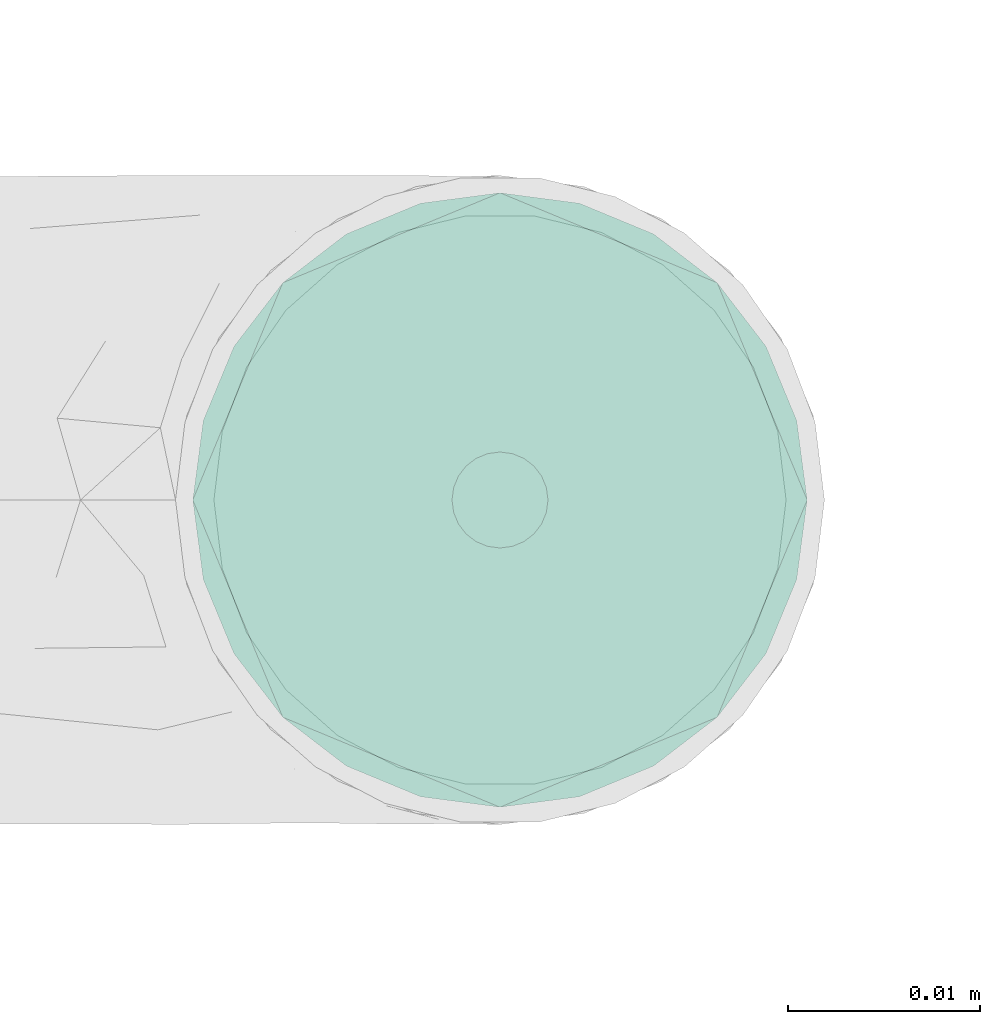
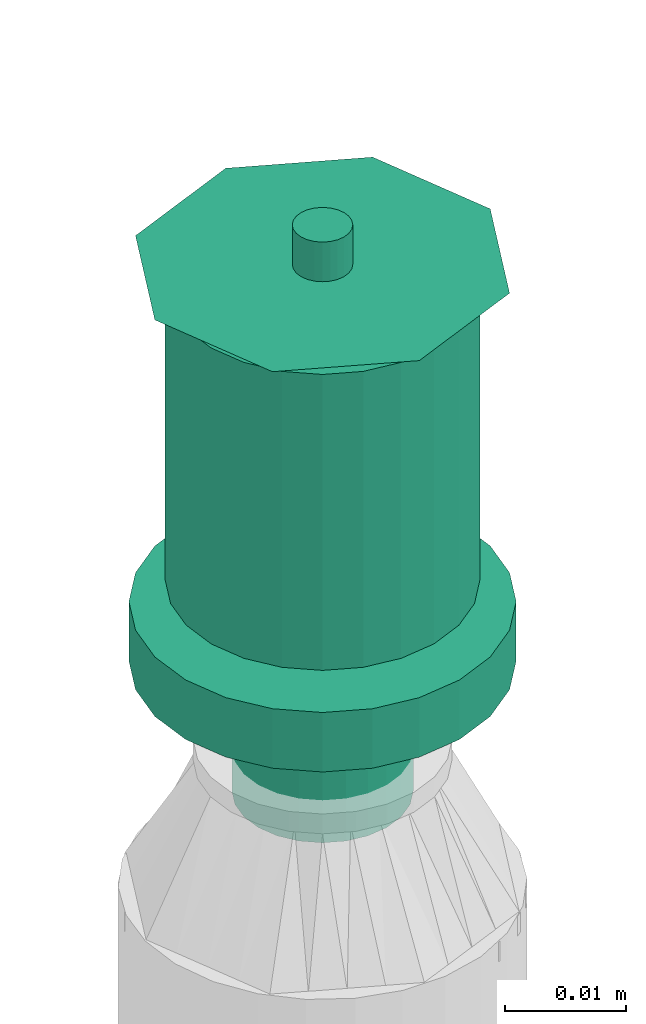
# One storey, part 61 of 157: 1 flow terminal.
"""IFC2X3 building model written with IfcOpenShell, lengths in millimetres."""

import ifcopenshell
import ifcopenshell.guid

model = None  # the IFC model being written
_history = None  # IfcOwnerHistory: only IFC2X3 demands one
_inside = {}  # id of a spatial element -> (the spatial element, [elements in it])
_under = {}  # id of a project, library or spatial element -> (it, [spatial elements below it])
_declared = {}  # id of a project -> (the project, [libraries it declares])
_typed = {}  # id of a type object -> (the type object, [elements of that type])
_made_of = {}  # id of a material, layer set ... -> (it, [elements and type objects made of it])


def new_model(schema):
    """Start an empty IFC model of exactly this schema.

    Asked for "IFC4X3", IfcOpenShell would pick the latest addendum, in which some entities
    have other attributes; the version numbers below select the first issue.
    IFC2X3 requires an IfcOwnerHistory on every rooted entity: one is made here for all.
    """
    global model, _history
    if schema == "IFC4X3":
        model = ifcopenshell.file(schema_version=(4, 3, 0, 0))
    else:
        model = ifcopenshell.file(schema=schema)
    _inside.clear()
    _under.clear()
    _declared.clear()
    _typed.clear()
    _made_of.clear()
    _history = None
    if model.schema == "IFC2X3":
        org = make("IfcOrganization", Name="unknown")
        user = make(
            "IfcPersonAndOrganization",
            ThePerson=make("IfcPerson", FamilyName="unknown"),
            TheOrganization=org,
        )
        app = make(
            "IfcApplication",
            ApplicationDeveloper=org,
            Version="unknown",
            ApplicationFullName="unknown",
            ApplicationIdentifier="unknown",
        )
        _history = make(
            "IfcOwnerHistory",
            OwningUser=user,
            OwningApplication=app,
            ChangeAction="ADDED",
            CreationDate=0,
        )
    return model


def make(cls, **values):
    """One entity of the class cls with the attributes given. An attribute that is None is left unset."""
    return model.create_entity(
        cls, **{name: value for name, value in values.items() if value is not None}
    )


def entity(cls, *values):
    """Any entity or typed value of the class cls, its attributes in the order of the schema. None: left unset."""
    e = model.create_entity(cls)
    for i, value in enumerate(values):
        if value is not None:
            e[i] = value
    return e


def rooted(cls, **values):
    """An entity with a GlobalId (a new one), such as an element, a storey or a relation."""
    return make(cls, GlobalId=ifcopenshell.guid.new(), OwnerHistory=_history, **values)


def si_unit(unit_type, name, prefix=None):
    """IfcSIUnit, for example si_unit("LENGTHUNIT", "METRE", prefix="MILLI")."""
    return make("IfcSIUnit", UnitType=unit_type, Prefix=prefix, Name=name)


def converted_unit(unit_type, name, factor, base, dimensions=None, offset=None):
    """IfcConversionBasedUnit, such as the inch: factor (a typed value) times the base unit."""
    return make(
        "IfcConversionBasedUnit"
        if offset is None
        else "IfcConversionBasedUnitWithOffset",
        ConversionOffset=offset,
        Dimensions=None
        if dimensions is None
        else entity("IfcDimensionalExponents", *dimensions),
        UnitType=unit_type,
        Name=name,
        ConversionFactor=make(
            "IfcMeasureWithUnit", ValueComponent=factor, UnitComponent=base
        ),
    )


def derived_unit(unit_type, elements):
    """IfcDerivedUnit: a product of units, each with its exponent."""
    return make(
        "IfcDerivedUnit",
        Elements=[
            make("IfcDerivedUnitElement", Unit=unit, Exponent=power)
            for unit, power in elements
        ],
        UnitType=unit_type,
    )


def assignment(units):
    """IfcUnitAssignment: the units of a project."""
    return None if units is None else make("IfcUnitAssignment", Units=units)


def point(xyz):
    """IfcCartesianPoint."""
    return None if xyz is None else make("IfcCartesianPoint", Coordinates=xyz)


def direction(xyz):
    """IfcDirection."""
    return None if xyz is None else make("IfcDirection", DirectionRatios=xyz)


def frame(location, z_axis=None, x_axis=None):
    """IfcAxis2Placement3D, a coordinate frame: its origin and axes. An axis left out is left unset."""
    return make(
        "IfcAxis2Placement3D",
        Location=point(location),
        Axis=direction(z_axis),
        RefDirection=direction(x_axis),
    )


def origin_with_axes():
    """The frame at (0, 0, 0) with the z axis (0, 0, 1) and the x axis (1, 0, 0) written out."""
    return frame((0.0, 0.0, 0.0), z_axis=(0.0, 0.0, 1.0), x_axis=(1.0, 0.0, 0.0))


def place(relative_to, where):
    """IfcLocalPlacement: puts the frame where relative to a parent placement (None: the world)."""
    return make(
        "IfcLocalPlacement", PlacementRelTo=relative_to, RelativePlacement=where
    )


def context(
    kind, dimensions, precision=None, world=None, true_north=None, identifier=None
):
    """IfcGeometricRepresentationContext, for example the 3D "Model" context."""
    return make(
        "IfcGeometricRepresentationContext",
        ContextIdentifier=identifier,
        ContextType=kind,
        CoordinateSpaceDimension=dimensions,
        Precision=precision,
        WorldCoordinateSystem=world,
        TrueNorth=true_north,
    )


def subcontext(parent, identifier, kind, view, scale=None):
    """IfcGeometricRepresentationSubContext, for example "Body" below "Model"."""
    return make(
        "IfcGeometricRepresentationSubContext",
        ContextIdentifier=identifier,
        ContextType=kind,
        ParentContext=parent,
        TargetScale=scale,
        TargetView=view,
    )


def project(units=None, contexts=None):
    """IfcProject with its units and contexts."""
    return rooted(
        "IfcProject",
        Name="project",
        RepresentationContexts=contexts,
        UnitsInContext=assignment(units),
    )


def spatial(cls, under=None, at=None, **own):
    """A site, building, storey or space (cls), placed at a placement, below another one or the project."""
    s = rooted(cls, ObjectPlacement=at, **own)
    if under is not None:
        _under.setdefault(under.id(), (under, []))[1].append(s)
    return s


def faces_of(points, faces, orient=None, outer=None):
    """IfcFace entities. A face is a list of loops; a loop is a list of indices into points, from 0.

    orient and outer hold one flag for each loop. By default every Orientation is true, the
    first loop of a face is its IfcFaceOuterBound and the others are IfcFaceBound.
    """
    made = []
    for i, loops in enumerate(faces):
        bounds = []
        for j, loop in enumerate(loops):
            is_outer = j == 0 if outer is None else outer[i][j]
            bounds.append(
                make(
                    "IfcFaceOuterBound" if is_outer else "IfcFaceBound",
                    Bound=make("IfcPolyLoop", Polygon=[points[k] for k in loop]),
                    Orientation=True if orient is None else orient[i][j],
                )
            )
        made.append(make("IfcFace", Bounds=bounds))
    return made


def open_shell(faces, orient=None, outer=None):
    """The faces of one IfcOpenShell. surface_model builds it on its shared points."""
    return ("IfcOpenShell", faces, orient, outer)


def surface_model(cls, points, shells):
    """IfcFaceBasedSurfaceModel or IfcShellBasedSurfaceModel (cls): surfaces that need not close."""
    shared = [point(p) for p in points]
    made = [make(c, CfsFaces=faces_of(shared, fs, o, b)) for c, fs, o, b in shells]
    if cls == "IfcFaceBasedSurfaceModel":
        return make(cls, FbsmFaces=made)
    return make(cls, SbsmBoundary=made)


def shape(context_of_items, identifier, shape_type, items):
    """IfcShapeRepresentation: the items that make up one representation, for example the "Body"."""
    return make(
        "IfcShapeRepresentation",
        ContextOfItems=context_of_items,
        RepresentationIdentifier=identifier,
        RepresentationType=shape_type,
        Items=items,
    )


def source(mapping_origin, context_of_items, identifier, shape_type, items):
    """IfcRepresentationMap: a shape defined once, which mapped items show again and again."""
    return make(
        "IfcRepresentationMap",
        MappingOrigin=mapping_origin,
        MappedRepresentation=shape(context_of_items, identifier, shape_type, items),
    )


def transform(
    local_origin,
    x_axis=None,
    y_axis=None,
    z_axis=None,
    scale=None,
    scale2=None,
    scale3=None,
    uniform=True,
):
    """IfcCartesianTransformationOperator3D, or its non-uniform kind. x_axis, y_axis, z_axis: its Axis1, 2, 3."""
    if uniform:
        return make(
            "IfcCartesianTransformationOperator3D",
            Axis1=direction(x_axis),
            Axis2=direction(y_axis),
            LocalOrigin=point(local_origin),
            Scale=scale,
            Axis3=direction(z_axis),
        )
    return make(
        "IfcCartesianTransformationOperator3DnonUniform",
        Axis1=direction(x_axis),
        Axis2=direction(y_axis),
        LocalOrigin=point(local_origin),
        Scale=scale,
        Axis3=direction(z_axis),
        Scale2=scale2,
        Scale3=scale3,
    )


def mapped(mapping_source, mapping_target):
    """IfcMappedItem: shows the shape of a source again, moved by a transform."""
    return make(
        "IfcMappedItem", MappingSource=mapping_source, MappingTarget=mapping_target
    )


def made_of(thing, what):
    """Note that an element or type object is made of a material, layer set ...; save() writes the relation."""
    if what is not None:
        _made_of.setdefault(what.id(), (what, []))[1].append(thing)
    return thing


def type_object(cls, material=None, **own):
    """A type object (cls), such as IfcWallType, which elements share."""
    return made_of(rooted(cls, **own), material)


def element(
    cls,
    number,
    at=None,
    inside=None,
    cuts=None,
    type_object=None,
    material=None,
    context=None,
    identifier="Body",
    shape_type=None,
    held_by="IfcProductDefinitionShape",
    body=None,
    shapes=None,
    **own,
):
    """One element of the class cls, such as IfcWall. Its Tag is "e" and its number.

    at: its placement. inside: the storey or other place that contains it. cuts: it is an
    opening in that element (IfcRelVoidsElement). A single representation is given by context,
    identifier, shape_type and body (its items); several are given by shapes. held_by: the class
    of the entity that holds the representations. save() writes the other relations.
    """
    e = rooted(cls, Tag="e%d" % number, ObjectPlacement=at, **own)
    if body is not None:
        shapes = [shape(context, identifier, shape_type, body)]
    if shapes is not None:
        e.Representation = make(held_by, Representations=shapes)
    if inside is not None:
        _inside.setdefault(inside.id(), (inside, []))[1].append(e)
    if cuts is not None:
        rooted(
            "IfcRelVoidsElement", RelatingBuildingElement=cuts, RelatedOpeningElement=e
        )
    if type_object is not None:
        _typed.setdefault(type_object.id(), (type_object, []))[1].append(e)
    return made_of(e, material)


def aggregate(whole, parts):
    """IfcRelAggregates: a whole, such as a stair, and the parts it consists of."""
    return rooted("IfcRelAggregates", RelatingObject=whole, RelatedObjects=parts)


def save(model, path):
    """Write the relations noted so far, then the file.

    IfcRelAggregates (storeys below a building ...), IfcRelContainedInSpatialStructure (elements
    in a storey), IfcRelDefinesByType, IfcRelAssociatesMaterial and IfcRelDeclares: one each for
    every whole, place, type object, material and project.
    """
    for whole, parts in _under.values():
        aggregate(whole, parts)
    for where, things in _inside.values():
        rooted(
            "IfcRelContainedInSpatialStructure",
            RelatedElements=things,
            RelatingStructure=where,
        )
    for kind, things in _typed.values():
        rooted("IfcRelDefinesByType", RelatedObjects=things, RelatingType=kind)
    for what, things in _made_of.values():
        rooted("IfcRelAssociatesMaterial", RelatedObjects=things, RelatingMaterial=what)
    for by, libraries in _declared.values():
        rooted("IfcRelDeclares", RelatingContext=by, RelatedDefinitions=libraries)
    model.write(path)


model = new_model("IFC2X3")

# Units and contexts
model_context = context("Model", 3, precision=0.01, world=frame((0.0, 4.29681676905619e-09, 0.0)), true_north=direction((4.01073788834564e-13, 1.0)))
plan_context = context("Plan", 3, precision=0.01, world=frame((0.0, 4.29681676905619e-09, 0.0)), true_north=direction((4.01073788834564e-13, 1.0)))
body_context = subcontext(model_context, "Body", "Model", "MODEL_VIEW")
ifc_project = project(units=[converted_unit("PLANEANGLEUNIT", "DEGREE", entity("IfcPositiveLengthMeasure", 0.0174532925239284), si_unit("PLANEANGLEUNIT", "RADIAN"), dimensions=[0, 0, 0, 0, 0, 0, 0]), si_unit("AREAUNIT", "SQUARE_METRE"), si_unit("LENGTHUNIT", "METRE", prefix="MILLI"), si_unit("MASSUNIT", "GRAM", prefix="KILO"), si_unit("POWERUNIT", "WATT"), si_unit("PRESSUREUNIT", "PASCAL"), si_unit("FORCEUNIT", "NEWTON", prefix="KILO"), si_unit("ELECTRICCURRENTUNIT", "AMPERE"), si_unit("THERMODYNAMICTEMPERATUREUNIT", "DEGREE_CELSIUS"), si_unit("TIMEUNIT", "SECOND"), si_unit("VOLUMEUNIT", "CUBIC_METRE"), derived_unit("LINEARVELOCITYUNIT", [(si_unit("LENGTHUNIT", "METRE"), 1), (si_unit("TIMEUNIT", "SECOND"), -1)]), derived_unit("VOLUMETRICFLOWRATEUNIT", [(si_unit("VOLUMEUNIT", "CUBIC_METRE"), 1), (si_unit("TIMEUNIT", "SECOND"), -1)]), derived_unit("THERMALTRANSMITTANCEUNIT", [(si_unit("POWERUNIT", "WATT"), 1), (si_unit("THERMODYNAMICTEMPERATUREUNIT", "KELVIN"), -1), (si_unit("AREAUNIT", "SQUARE_METRE"), -1)])], contexts=[model_context, plan_context])

# Site, building, storey
site_placement = place(None, frame((0.0, -4.29681676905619e-09, 0.0), z_axis=(0.0, 0.0, 1.0), x_axis=(1.0, 0.0, 0.0)))
site = spatial("IfcSite", under=ifc_project, at=site_placement, CompositionType="ELEMENT")
building_placement = place(site_placement, frame((0.0, 4.29681676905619e-09, 0.0), z_axis=(0.0, 0.0, 1.0), x_axis=(1.0, 0.0, 0.0)))
building = spatial("IfcBuilding", under=site, at=building_placement, Name="mc-building", CompositionType="ELEMENT")
storey_placement = place(building_placement, frame((0.0, 0.0, 204000.0), z_axis=(0.0, 0.0, 1.0), x_axis=(1.0, 0.0, 0.0)))
storey = spatial("IfcBuildingStorey", under=building, at=storey_placement, Name="Nivå D", CompositionType="ELEMENT", Elevation=204000.0)

# Flow terminal
fire_suppression_terminal_type = type_object("IfcFireSuppressionTerminalType", Name="68DGR-STD-STÅENDE", PredefinedType="NOTDEFINED")
shared_shape = source(origin_with_axes(), body_context, "Body", "SurfaceModel", [
    surface_model("IfcShellBasedSurfaceModel", [(3.36465, -12.55704, 51.0), (6.5, -11.25833, 51.0), (9.19239, -9.19239, 51.0), (12.55704, -3.36465, 51.0), (-11.25833, -6.5, 51.0), (11.25833, -6.5, 51.0), (-13.0, 0.0, 51.0), (0.0, -13.0, 51.0), (-6.5, -11.25833, 51.0), (-3.36465, -12.55704, 51.0), (-9.19239, -9.19239, 51.0), (-12.55704, -3.36465, 51.0), (13.0, 0.0, 51.0), (12.55704, 3.36465, 51.0), (11.25833, 6.5, 51.0), (9.19239, 9.19239, 51.0), (6.5, 11.25833, 51.0), (3.36465, 12.55704, 51.0), (0.0, 13.0, 51.0), (-3.36465, 12.55704, 51.0), (-12.55704, 3.36465, 51.0), (-9.19239, 9.19239, 51.0), (-11.25833, 6.5, 51.0), (-6.5, 11.25833, 51.0), (0.0, 13.0, 21.14766), (3.36465, 12.55704, 21.14766), (6.5, 11.25833, 21.14766), (-3.36465, 12.55704, 21.14766), (9.19239, 9.19239, 21.14766), (11.25833, 6.5, 21.14766), (12.55704, 3.36465, 21.14766), (-12.55704, 3.36465, 21.14766), (-11.25833, -6.5, 21.14766), (-9.19239, 9.19239, 21.14766), (-6.5, 11.25833, 21.14766), (-11.25833, 6.5, 21.14766), (-13.0, 0.0, 21.14766), (12.55704, -3.36465, 21.14766), (9.19239, -9.19239, 21.14766), (11.25833, -6.5, 21.14766), (6.5, -11.25833, 21.14766), (3.36465, -12.55704, 21.14766), (-6.5, -11.25833, 21.14766), (-9.19239, -9.19239, 21.14766), (-12.55704, -3.36465, 21.14766), (0.0, -13.0, 21.14766), (-3.36465, -12.55704, 21.14766), (13.0, 0.0, 21.14766), (7.24444, -1.94114, 0.1), (1.94114, -7.24444, 0.1), (3.75, -6.49519, 0.1), (5.3033, -5.3033, 0.1), (-5.3033, -5.3033, 0.1), (6.49519, -3.75, 0.1), (5.3033, 5.3033, 0.1), (0.0, -7.5, 0.1), (-3.75, -6.49519, 0.1), (-1.94114, -7.24444, 0.1), (-7.24444, -1.94114, 0.1), (-6.49519, -3.75, 0.1), (-7.24444, 1.94114, 0.1), (7.5, 0.0, 0.1), (6.49519, 3.75, 0.1), (-6.49519, 3.75, 0.1), (1.94114, 7.24444, 0.1), (0.0, 7.5, 0.1), (3.75, 6.49519, 0.1), (-7.5, 0.0, 0.1), (-5.3033, 5.3033, 0.1), (-1.94114, 7.24444, 0.1), (-3.75, 6.49519, 0.1), (7.24444, 1.94114, 0.1), (1.94114, 7.24444, -0.1), (-6.49519, 3.75, -0.1), (0.0, 7.5, -0.1), (5.3033, 5.3033, -0.1), (3.75, 6.49519, -0.1), (6.49519, 3.75, -0.1), (7.24444, 1.94114, -0.1), (-1.94114, 7.24444, -0.1), (-5.3033, 5.3033, -0.1), (-3.75, 6.49519, -0.1), (-7.24444, 1.94114, -0.1), (-7.24444, -1.94114, -0.1), (-7.5, 0.0, -0.1), (7.5, 0.0, -0.1), (7.24444, -1.94114, -0.1), (-5.3033, -5.3033, -0.1), (1.94114, -7.24444, -0.1), (6.49519, -3.75, -0.1), (5.3033, -5.3033, -0.1), (3.75, -6.49519, -0.1), (-6.49519, -3.75, -0.1), (-3.75, -6.49519, -0.1), (0.0, -7.5, -0.1), (-1.94114, -7.24444, -0.1), (0.0, -2.5, 51.0), (-2.5, 0.0, 51.0), (0.0, 2.5, 51.0), (2.5, 0.0, 51.0), (0.0, -16.0, 53.0), (11.31371, -11.31371, 53.0), (-11.31371, -11.31371, 53.0), (-16.0, 0.0, 53.0), (16.0, 0.0, 53.0), (11.31371, 11.31371, 53.0), (0.0, 16.0, 53.0), (-11.31371, 11.31371, 53.0), (1.25, -2.16506, 57.0), (0.0, -2.5, 57.0), (0.64705, -2.41481, 57.0), (2.41481, -0.64705, 57.0), (1.76777, -1.76777, 57.0), (-2.41481, -0.64705, 57.0), (-2.5, 0.0, 57.0), (2.16506, -1.25, 57.0), (-1.25, -2.16506, 57.0), (-0.64705, -2.41481, 57.0), (-1.76777, -1.76777, 57.0), (-2.16506, -1.25, 57.0), (2.5, 0.0, 57.0), (2.41481, 0.64705, 57.0), (2.16506, 1.25, 57.0), (1.76777, 1.76777, 57.0), (0.64705, 2.41481, 57.0), (1.25, 2.16506, 57.0), (-1.76777, 1.76777, 57.0), (0.0, 2.5, 57.0), (-2.16506, 1.25, 57.0), (-2.41481, 0.64705, 57.0), (-0.64705, 2.41481, 57.0), (-1.25, 2.16506, 57.0), (1.25, 2.16506, 51.0), (1.76777, 1.76777, 51.0), (1.15, 1.99186, 51.0), (0.59528, 2.22163, 51.0), (0.64705, 2.41481, 51.0), (0.0, 2.3, 51.0), (1.62635, 1.62635, 51.0), (2.41481, 0.64705, 51.0), (2.3, 0.0, 51.0), (2.22163, 0.59528, 51.0), (2.16506, 1.25, 51.0), (1.99186, 1.15, 51.0), (-0.59528, 2.22163, 51.0), (-0.64705, 2.41481, 51.0), (-1.15, 1.99186, 51.0), (-1.76777, 1.76777, 51.0), (-1.25, 2.16506, 51.0), (-1.62635, 1.62635, 51.0), (-1.99186, 1.15, 51.0), (-2.16506, 1.25, 51.0), (-2.22163, 0.59528, 51.0), (-2.41481, 0.64705, 51.0), (-2.3, 0.0, 51.0), (2.41481, -0.64705, 51.0), (2.22163, -0.59528, 51.0), (1.99186, -1.15, 51.0), (2.16506, -1.25, 51.0), (1.62635, -1.62635, 51.0), (1.76777, -1.76777, 51.0), (1.25, -2.16506, 51.0), (1.15, -1.99186, 51.0), (0.59528, -2.22163, 51.0), (0.64705, -2.41481, 51.0), (0.0, -2.3, 51.0), (-2.16506, -1.25, 51.0), (-1.99186, -1.15, 51.0), (-1.76777, -1.76777, 51.0), (-1.62635, -1.62635, 51.0), (-2.41481, -0.64705, 51.0), (-2.22163, -0.59528, 51.0), (-0.59528, -2.22163, 51.0), (-0.64705, -2.41481, 51.0), (-1.15, -1.99186, 51.0), (-1.25, -2.16506, 51.0), (1.62635, -1.62635, 56.8), (1.15, -1.99186, 56.8), (0.59528, -2.22163, 56.8), (0.0, -2.3, 56.8), (2.22163, 0.59528, 56.8), (1.99186, -1.15, 56.8), (2.22163, -0.59528, 56.8), (-0.59528, -2.22163, 56.8), (-1.15, -1.99186, 56.8), (-1.62635, -1.62635, 56.8), (-1.99186, -1.15, 56.8), (-2.22163, -0.59528, 56.8), (-1.99186, 1.15, 56.8), (2.3, 0.0, 56.8), (1.62635, 1.62635, 56.8), (1.99186, 1.15, 56.8), (1.15, 1.99186, 56.8), (0.0, 2.3, 56.8), (0.59528, 2.22163, 56.8), (-2.22163, 0.59528, 56.8), (-2.3, 0.0, 56.8), (-1.15, 1.99186, 56.8), (-0.59528, 2.22163, 56.8), (-1.62635, 1.62635, 56.8), (4.1411, -15.45481, 19.0), (8.0, -13.85641, 19.0), (11.31371, -11.31371, 19.0), (-8.0, -13.85641, 19.0), (15.45481, -4.1411, 19.0), (16.0, 0.0, 19.0), (13.85641, -8.0, 19.0), (0.0, -16.0, 19.0), (-4.1411, -15.45481, 19.0), (-13.85641, -8.0, 19.0), (-11.31371, -11.31371, 19.0), (-15.45481, -4.1411, 19.0), (15.45481, 4.1411, 19.0), (13.85641, 8.0, 19.0), (11.31371, 11.31371, 19.0), (-4.1411, 15.45481, 19.0), (8.0, 13.85641, 19.0), (4.1411, 15.45481, 19.0), (0.0, 16.0, 19.0), (-13.85641, 8.0, 19.0), (-15.45481, 4.1411, 19.0), (-16.0, 0.0, 19.0), (-11.31371, 11.31371, 19.0), (-8.0, 13.85641, 19.0), (0.0, 16.0, 13.0), (4.1411, 15.45481, 13.0), (8.0, 13.85641, 13.0), (-4.1411, 15.45481, 13.0), (11.31371, 11.31371, 13.0), (13.85641, 8.0, 13.0), (15.45481, 4.1411, 13.0), (-15.45481, -4.1411, 13.0), (-11.31371, 11.31371, 13.0), (-8.0, 13.85641, 13.0), (-13.85641, 8.0, 13.0), (-15.45481, 4.1411, 13.0), (-16.0, 0.0, 13.0), (4.1411, -15.45481, 13.0), (16.0, 0.0, 13.0), (15.45481, -4.1411, 13.0), (13.85641, -8.0, 13.0), (11.31371, -11.31371, 13.0), (8.0, -13.85641, 13.0), (-8.0, -13.85641, 13.0), (-13.85641, -8.0, 13.0), (-11.31371, -11.31371, 13.0), (0.0, -16.0, 13.0), (-4.1411, -15.45481, 13.0), (7.24444, -1.94114, 13.0), (1.94114, -7.24444, 13.0), (3.75, -6.49519, 13.0), (5.3033, -5.3033, 13.0), (-5.3033, -5.3033, 13.0), (6.49519, -3.75, 13.0), (5.3033, 5.3033, 13.0), (0.0, -7.5, 13.0), (-3.75, -6.49519, 13.0), (-1.94114, -7.24444, 13.0), (-7.24444, -1.94114, 13.0), (-6.49519, -3.75, 13.0), (-7.24444, 1.94114, 13.0), (7.5, 0.0, 13.0), (6.49519, 3.75, 13.0), (-6.49519, 3.75, 13.0), (1.94114, 7.24444, 13.0), (0.0, 7.5, 13.0), (3.75, 6.49519, 13.0), (-7.5, 0.0, 13.0), (-5.3033, 5.3033, 13.0), (-1.94114, 7.24444, 13.0), (-3.75, 6.49519, 13.0), (7.24444, 1.94114, 13.0), (3.75, 6.49519, 0.0), (5.3033, 5.3033, 0.0), (3.65, 6.32199, 0.0), (1.88938, 7.05126, 0.0), (0.0, 7.3, 0.0), (1.94114, 7.24444, 0.0), (0.0, 7.5, 0.0), (5.16188, 5.16188, 0.0), (7.24444, 1.94114, 0.0), (7.3, 0.0, 0.0), (7.05126, 1.88938, 0.0), (7.5, 0.0, 0.0), (6.49519, 3.75, 0.0), (6.32199, 3.65, 0.0), (-1.88938, 7.05126, 0.0), (-1.94114, 7.24444, 0.0), (-3.65, 6.32199, 0.0), (-5.3033, 5.3033, 0.0), (-3.75, 6.49519, 0.0), (-5.16188, 5.16188, 0.0), (-6.32199, 3.65, 0.0), (-6.49519, 3.75, 0.0), (-7.05126, 1.88938, 0.0), (-7.24444, 1.94114, 0.0), (-7.3, 0.0, 0.0), (-7.5, 0.0, 0.0), (7.24444, -1.94114, 0.0), (7.05126, -1.88938, 0.0), (6.32199, -3.65, 0.0), (6.49519, -3.75, 0.0), (5.16188, -5.16188, 0.0), (5.3033, -5.3033, 0.0), (3.75, -6.49519, 0.0), (3.65, -6.32199, 0.0), (1.88938, -7.05126, 0.0), (1.94114, -7.24444, 0.0), (0.0, -7.3, 0.0), (0.0, -7.5, 0.0), (-6.49519, -3.75, 0.0), (-6.32199, -3.65, 0.0), (-5.3033, -5.3033, 0.0), (-5.16188, -5.16188, 0.0), (-7.24444, -1.94114, 0.0), (-7.05126, -1.88938, 0.0), (-1.88938, -7.05126, 0.0), (-1.94114, -7.24444, 0.0), (-3.65, -6.32199, 0.0), (-3.75, -6.49519, 0.0), (1.88938, -7.05126, 12.8), (0.0, -7.3, 12.8), (3.65, -6.32199, 12.8), (5.16188, -5.16188, 12.8), (6.32199, -3.65, 12.8), (7.05126, 1.88938, 12.8), (7.05126, -1.88938, 12.8), (-5.16188, -5.16188, 12.8), (-1.88938, -7.05126, 12.8), (-3.65, -6.32199, 12.8), (-6.32199, -3.65, 12.8), (-7.05126, -1.88938, 12.8), (0.0, 7.3, 12.8), (7.3, 0.0, 12.8), (6.32199, 3.65, 12.8), (5.16188, 5.16188, 12.8), (3.65, 6.32199, 12.8), (1.88938, 7.05126, 12.8), (-6.32199, 3.65, 12.8), (-7.05126, 1.88938, 12.8), (-7.3, 0.0, 12.8), (-3.65, 6.32199, 12.8), (-1.88938, 7.05126, 12.8), (-5.16188, 5.16188, 12.8)], [open_shell([[[0, 1, 2]], [[0, 2, 3]], [[0, 3, 4]], [[3, 2, 5]], [[6, 4, 3]], [[7, 8, 9]], [[7, 0, 8]], [[8, 4, 10]], [[0, 4, 8]], [[4, 6, 11]], [[6, 3, 12]], [[13, 14, 15]], [[6, 13, 15]], [[16, 17, 18]], [[15, 16, 19]], [[18, 19, 16]], [[20, 21, 22]], [[20, 6, 15]], [[21, 19, 23]], [[19, 21, 20]], [[15, 19, 20]], [[13, 6, 12]], [[24, 25, 26]], [[27, 24, 26]], [[28, 29, 30]], [[26, 28, 31]], [[28, 32, 31]], [[27, 33, 34]], [[33, 27, 31]], [[33, 31, 35]], [[27, 26, 31]], [[31, 32, 36]], [[32, 28, 30]], [[32, 30, 37]], [[38, 37, 39]], [[38, 40, 41]], [[38, 41, 37]], [[32, 37, 41]], [[32, 42, 43]], [[44, 36, 32]], [[42, 45, 46]], [[42, 32, 41]], [[45, 42, 41]], [[30, 47, 37]], [[4, 32, 43]], [[8, 42, 46]], [[43, 42, 10]], [[9, 46, 45]], [[36, 11, 6]], [[11, 36, 44]], [[11, 44, 4]], [[44, 32, 4]], [[43, 10, 4]], [[8, 10, 42]], [[46, 9, 8]], [[45, 7, 9]], [[0, 41, 40]], [[38, 1, 40]], [[5, 39, 37]], [[38, 39, 2]], [[3, 37, 47]], [[41, 0, 7]], [[40, 1, 0]], [[38, 2, 1]], [[39, 5, 2]], [[3, 5, 37]], [[47, 12, 3]], [[41, 7, 45]], [[30, 13, 47]], [[29, 14, 30]], [[25, 24, 17]], [[15, 29, 28]], [[30, 14, 13]], [[13, 12, 47]], [[16, 26, 17]], [[16, 15, 28]], [[26, 25, 17]], [[15, 14, 29]], [[28, 26, 16]], [[24, 18, 17]], [[19, 27, 34]], [[33, 23, 34]], [[22, 35, 31]], [[33, 35, 21]], [[20, 31, 36]], [[27, 19, 18]], [[34, 23, 19]], [[33, 21, 23]], [[35, 22, 21]], [[20, 22, 31]], [[36, 6, 20]], [[27, 18, 24]], [[48, 49, 50]], [[48, 50, 51]], [[49, 48, 52]], [[48, 51, 53]], [[54, 52, 48]], [[55, 56, 57]], [[56, 55, 52]], [[52, 58, 59]], [[52, 55, 49]], [[52, 60, 58]], [[54, 48, 61]], [[62, 54, 61]], [[54, 63, 52]], [[64, 65, 54]], [[64, 54, 66]], [[63, 54, 65]], [[63, 60, 52]], [[67, 58, 60]], [[68, 69, 70]], [[69, 68, 63]], [[69, 63, 65]], [[71, 62, 61]], [[72, 73, 74]], [[75, 72, 76]], [[75, 77, 78]], [[72, 75, 73]], [[78, 73, 75]], [[79, 80, 81]], [[80, 79, 73]], [[74, 73, 79]], [[78, 82, 73]], [[82, 83, 84]], [[82, 78, 85]], [[86, 87, 85]], [[88, 86, 89]], [[90, 91, 88]], [[90, 88, 89]], [[87, 86, 88]], [[83, 87, 92]], [[83, 85, 87]], [[93, 94, 95]], [[94, 93, 87]], [[88, 94, 87]], [[85, 83, 82]], [[83, 58, 84]], [[92, 59, 83]], [[56, 87, 93]], [[92, 87, 52]], [[57, 93, 95]], [[83, 59, 58]], [[58, 67, 84]], [[57, 56, 93]], [[52, 87, 56]], [[52, 59, 92]], [[55, 57, 95]], [[95, 94, 55]], [[88, 49, 94]], [[91, 50, 88]], [[53, 90, 89]], [[91, 90, 51]], [[48, 89, 86]], [[91, 51, 50]], [[50, 49, 88]], [[61, 48, 86]], [[53, 89, 48]], [[53, 51, 90]], [[85, 61, 86]], [[94, 49, 55]], [[78, 71, 85]], [[77, 62, 78]], [[66, 75, 76]], [[77, 75, 54]], [[64, 76, 72]], [[78, 62, 71]], [[71, 61, 85]], [[64, 66, 76]], [[54, 75, 66]], [[54, 62, 77]], [[65, 64, 72]], [[72, 74, 65]], [[79, 69, 74]], [[81, 70, 79]], [[63, 80, 73]], [[81, 80, 68]], [[60, 73, 82]], [[81, 68, 70]], [[70, 69, 79]], [[67, 60, 82]], [[63, 73, 60]], [[63, 68, 80]], [[84, 67, 82]], [[74, 69, 65]], [[96, 97, 98]], [[98, 99, 96]], [[100, 101, 102]], [[103, 102, 101]], [[101, 104, 103]], [[104, 105, 106]], [[107, 103, 106]], [[106, 103, 104]], [[99, 98, 105]], [[105, 104, 99]], [[98, 106, 105]], [[98, 107, 106]], [[107, 98, 97]], [[103, 107, 97]], [[97, 96, 102]], [[102, 103, 97]], [[96, 100, 102]], [[96, 101, 100]], [[101, 96, 99]], [[104, 101, 99]], [[108, 109, 110]], [[111, 108, 112]], [[113, 108, 114]], [[111, 112, 115]], [[108, 111, 114]], [[109, 116, 117]], [[116, 109, 118]], [[118, 113, 119]], [[118, 109, 108]], [[108, 113, 118]], [[111, 120, 114]], [[121, 122, 123]], [[114, 121, 123]], [[114, 123, 124]], [[124, 123, 125]], [[126, 124, 127]], [[124, 128, 129]], [[129, 114, 124]], [[126, 130, 131]], [[128, 124, 126]], [[130, 126, 127]], [[121, 114, 120]], [[132, 133, 134]], [[132, 134, 135]], [[136, 135, 137]], [[135, 136, 132]], [[136, 137, 98]], [[134, 133, 138]], [[139, 140, 141]], [[140, 139, 99]], [[139, 141, 142]], [[138, 142, 143]], [[142, 138, 133]], [[143, 142, 141]], [[98, 144, 145]], [[98, 137, 144]], [[145, 144, 146]], [[147, 148, 149]], [[146, 148, 145]], [[149, 148, 146]], [[150, 151, 147]], [[151, 150, 152]], [[150, 147, 149]], [[153, 152, 154]], [[152, 153, 151]], [[153, 154, 97]], [[99, 155, 156]], [[156, 155, 157]], [[157, 158, 159]], [[158, 157, 155]], [[159, 158, 160]], [[160, 161, 162]], [[162, 161, 163]], [[163, 164, 165]], [[164, 163, 161]], [[165, 164, 96]], [[162, 159, 160]], [[166, 167, 168]], [[168, 167, 169]], [[167, 166, 170]], [[97, 171, 170]], [[170, 171, 167]], [[97, 154, 171]], [[172, 96, 173]], [[172, 173, 174]], [[169, 175, 168]], [[175, 169, 174]], [[175, 174, 173]], [[165, 96, 172]], [[156, 140, 99]], [[170, 113, 97]], [[166, 119, 170]], [[116, 168, 175]], [[166, 168, 118]], [[117, 175, 173]], [[170, 119, 113]], [[113, 114, 97]], [[117, 116, 175]], [[118, 168, 116]], [[118, 119, 166]], [[109, 117, 173]], [[173, 96, 109]], [[164, 110, 96]], [[161, 108, 164]], [[115, 160, 158]], [[161, 160, 112]], [[111, 158, 155]], [[161, 112, 108]], [[108, 110, 164]], [[120, 111, 155]], [[115, 158, 111]], [[115, 112, 160]], [[99, 120, 155]], [[96, 110, 109]], [[139, 121, 99]], [[142, 122, 139]], [[125, 133, 132]], [[142, 133, 123]], [[124, 132, 136]], [[139, 122, 121]], [[121, 120, 99]], [[124, 125, 132]], [[123, 133, 125]], [[123, 122, 142]], [[127, 124, 136]], [[136, 98, 127]], [[145, 130, 98]], [[148, 131, 145]], [[128, 147, 151]], [[148, 147, 126]], [[129, 151, 153]], [[148, 126, 131]], [[131, 130, 145]], [[114, 129, 153]], [[128, 151, 129]], [[128, 126, 147]], [[97, 114, 153]], [[98, 130, 127]], [[176, 177, 178]], [[176, 178, 179]], [[180, 176, 179]], [[181, 176, 182]], [[180, 182, 176]], [[183, 184, 179]], [[185, 179, 184]], [[186, 187, 185]], [[185, 187, 188]], [[179, 185, 188]], [[189, 182, 180]], [[190, 191, 180]], [[192, 190, 180]], [[193, 194, 192]], [[180, 193, 192]], [[188, 193, 180]], [[195, 188, 196]], [[196, 188, 187]], [[197, 198, 199]], [[188, 199, 198]], [[188, 198, 193]], [[180, 179, 188]], [[154, 187, 171]], [[171, 186, 167]], [[174, 169, 184]], [[185, 169, 167]], [[172, 174, 183]], [[187, 186, 171]], [[154, 196, 187]], [[174, 184, 183]], [[184, 169, 185]], [[167, 186, 185]], [[172, 183, 179]], [[179, 165, 172]], [[165, 178, 163]], [[163, 177, 162]], [[157, 159, 181]], [[176, 159, 162]], [[156, 157, 182]], [[177, 176, 162]], [[163, 178, 177]], [[156, 182, 189]], [[182, 157, 181]], [[159, 176, 181]], [[156, 189, 140]], [[179, 178, 165]], [[140, 180, 141]], [[141, 191, 143]], [[134, 138, 192]], [[190, 138, 143]], [[135, 134, 194]], [[180, 191, 141]], [[140, 189, 180]], [[134, 192, 194]], [[192, 138, 190]], [[143, 191, 190]], [[135, 194, 193]], [[193, 137, 135]], [[137, 198, 144]], [[144, 197, 146]], [[150, 149, 188]], [[199, 149, 146]], [[152, 150, 195]], [[197, 199, 146]], [[144, 198, 197]], [[152, 195, 196]], [[195, 150, 188]], [[149, 199, 188]], [[152, 196, 154]], [[193, 198, 137]], [[200, 201, 202]], [[203, 200, 202]], [[204, 205, 202]], [[204, 202, 206]], [[203, 202, 205]], [[207, 203, 208]], [[207, 200, 203]], [[203, 209, 210]], [[209, 203, 211]], [[205, 211, 203]], [[205, 212, 211]], [[212, 213, 214]], [[215, 212, 214]], [[216, 217, 218]], [[214, 216, 215]], [[218, 215, 216]], [[211, 219, 220]], [[221, 211, 220]], [[222, 215, 223]], [[215, 222, 219]], [[219, 211, 215]], [[211, 212, 215]], [[224, 225, 226]], [[227, 224, 226]], [[228, 229, 230]], [[227, 226, 228]], [[227, 228, 231]], [[227, 232, 233]], [[232, 227, 234]], [[234, 231, 235]], [[231, 234, 227]], [[235, 231, 236]], [[228, 230, 231]], [[237, 238, 239]], [[237, 239, 240]], [[241, 242, 237]], [[241, 237, 240]], [[238, 237, 243]], [[244, 243, 245]], [[243, 244, 231]], [[243, 246, 247]], [[243, 231, 238]], [[237, 246, 243]], [[238, 231, 230]], [[231, 211, 236]], [[244, 209, 231]], [[203, 245, 243]], [[244, 245, 210]], [[208, 243, 247]], [[231, 209, 211]], [[211, 221, 236]], [[208, 203, 243]], [[210, 245, 203]], [[210, 209, 244]], [[207, 208, 247]], [[247, 246, 207]], [[237, 200, 246]], [[242, 201, 237]], [[206, 241, 240]], [[242, 241, 202]], [[204, 240, 239]], [[242, 202, 201]], [[201, 200, 237]], [[205, 204, 239]], [[206, 240, 204]], [[206, 202, 241]], [[238, 205, 239]], [[246, 200, 207]], [[230, 212, 238]], [[229, 213, 230]], [[216, 228, 226]], [[229, 228, 214]], [[217, 226, 225]], [[230, 213, 212]], [[212, 205, 238]], [[217, 216, 226]], [[214, 228, 216]], [[214, 213, 229]], [[218, 217, 225]], [[225, 224, 218]], [[227, 215, 224]], [[233, 223, 227]], [[219, 232, 234]], [[233, 232, 222]], [[220, 234, 235]], [[233, 222, 223]], [[223, 215, 227]], [[221, 220, 235]], [[219, 234, 220]], [[219, 222, 232]], [[236, 221, 235]], [[224, 215, 218]], [[248, 249, 250]], [[248, 250, 251]], [[249, 248, 252]], [[248, 251, 253]], [[254, 252, 248]], [[255, 256, 257]], [[256, 255, 252]], [[252, 258, 259]], [[252, 255, 249]], [[252, 260, 258]], [[254, 248, 261]], [[262, 254, 261]], [[254, 263, 252]], [[264, 265, 254]], [[264, 254, 266]], [[263, 254, 265]], [[263, 260, 252]], [[267, 258, 260]], [[268, 269, 270]], [[269, 268, 263]], [[269, 263, 265]], [[271, 262, 261]], [[272, 273, 274]], [[272, 274, 275]], [[276, 277, 275]], [[277, 276, 278]], [[275, 277, 272]], [[274, 273, 279]], [[280, 281, 282]], [[281, 280, 283]], [[280, 282, 284]], [[279, 284, 285]], [[284, 279, 273]], [[285, 284, 282]], [[278, 286, 287]], [[287, 286, 288]], [[289, 290, 291]], [[288, 290, 287]], [[288, 291, 290]], [[278, 276, 286]], [[292, 293, 289]], [[293, 292, 294]], [[292, 289, 291]], [[295, 294, 296]], [[294, 295, 293]], [[295, 296, 297]], [[283, 298, 299]], [[299, 298, 300]], [[300, 301, 302]], [[301, 300, 298]], [[302, 301, 303]], [[303, 304, 305]], [[305, 304, 306]], [[306, 307, 308]], [[307, 306, 304]], [[308, 307, 309]], [[305, 302, 303]], [[310, 311, 312]], [[312, 311, 313]], [[311, 310, 314]], [[297, 315, 314]], [[314, 315, 311]], [[297, 296, 315]], [[316, 309, 317]], [[316, 317, 318]], [[313, 319, 312]], [[313, 318, 319]], [[319, 318, 317]], [[308, 309, 316]], [[299, 281, 283]], [[314, 258, 297]], [[310, 259, 314]], [[256, 312, 319]], [[310, 312, 252]], [[257, 319, 317]], [[314, 259, 258]], [[258, 267, 297]], [[257, 256, 319]], [[252, 312, 256]], [[252, 259, 310]], [[255, 257, 317]], [[317, 309, 255]], [[307, 249, 309]], [[304, 250, 307]], [[253, 303, 301]], [[304, 303, 251]], [[248, 301, 298]], [[304, 251, 250]], [[250, 249, 307]], [[261, 248, 298]], [[253, 301, 248]], [[253, 251, 303]], [[283, 261, 298]], [[309, 249, 255]], [[280, 271, 283]], [[284, 262, 280]], [[266, 273, 272]], [[284, 273, 254]], [[264, 272, 277]], [[280, 262, 271]], [[271, 261, 283]], [[264, 266, 272]], [[254, 273, 266]], [[254, 262, 284]], [[265, 264, 277]], [[277, 278, 265]], [[287, 269, 278]], [[290, 270, 287]], [[263, 289, 293]], [[290, 289, 268]], [[260, 293, 295]], [[290, 268, 270]], [[270, 269, 287]], [[267, 260, 295]], [[263, 293, 260]], [[263, 268, 289]], [[297, 267, 295]], [[278, 269, 265]], [[320, 321, 322]], [[323, 322, 324]], [[325, 326, 322]], [[324, 322, 326]], [[322, 327, 325]], [[328, 329, 321]], [[327, 321, 329]], [[330, 331, 327]], [[322, 321, 327]], [[331, 332, 327]], [[326, 325, 333]], [[334, 325, 332]], [[335, 334, 336]], [[332, 337, 336]], [[334, 332, 336]], [[331, 338, 332]], [[339, 338, 340]], [[340, 338, 331]], [[341, 342, 343]], [[332, 338, 343]], [[332, 343, 342]], [[332, 325, 327]], [[296, 331, 315]], [[315, 330, 311]], [[318, 313, 329]], [[327, 313, 311]], [[316, 318, 328]], [[331, 330, 315]], [[296, 340, 331]], [[318, 329, 328]], [[329, 313, 327]], [[311, 330, 327]], [[316, 328, 321]], [[321, 308, 316]], [[308, 320, 306]], [[306, 322, 305]], [[300, 302, 324]], [[323, 302, 305]], [[299, 300, 326]], [[322, 323, 305]], [[306, 320, 322]], [[299, 326, 333]], [[326, 300, 324]], [[302, 323, 324]], [[299, 333, 281]], [[321, 320, 308]], [[281, 325, 282]], [[282, 334, 285]], [[274, 279, 336]], [[335, 279, 285]], [[275, 274, 337]], [[325, 334, 282]], [[281, 333, 325]], [[274, 336, 337]], [[336, 279, 335]], [[285, 334, 335]], [[275, 337, 332]], [[332, 276, 275]], [[276, 342, 286]], [[286, 341, 288]], [[292, 291, 338]], [[343, 291, 288]], [[294, 292, 339]], [[341, 343, 288]], [[286, 342, 341]], [[294, 339, 340]], [[339, 292, 338]], [[291, 343, 338]], [[294, 340, 296]], [[332, 342, 276]]])]),
])
flow_terminal_placement = place(storey_placement, frame((522440.35, 410800.0, 3169.5), z_axis=(0.0, 0.0, 1.0), x_axis=(1.0, 0.0, 0.0)))
element("IfcFlowTerminal", 1, at=flow_terminal_placement, inside=storey, type_object=fire_suppression_terminal_type, Name="68DGR-STD-STÅENDE", context=body_context, shape_type="MappedRepresentation", body=[
    mapped(shared_shape, transform((0.0, 0.0, 0.0), scale=1.0)),
])

save(model, "model.ifc")
